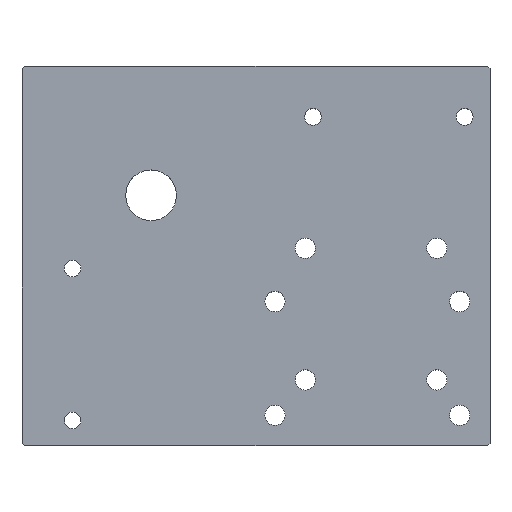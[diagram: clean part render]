
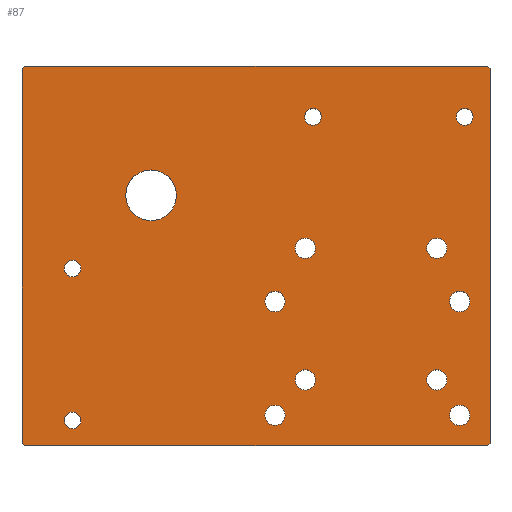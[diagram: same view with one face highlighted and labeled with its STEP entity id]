
A CAD part, top view. The second image highlights one B-rep face of the part: STEP entity #87.
In plain terms, the highlighted planar face has unit normal (0, 0, 1).
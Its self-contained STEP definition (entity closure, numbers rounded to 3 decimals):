
#87=ADVANCED_FACE('',(#194,#195,#196,#197,#198,#199,#200,#201,#202,#203,#204,#205,#206,#207),#208,.T.);
#194=FACE_BOUND('',#309,.T.);
#195=FACE_BOUND('',#310,.T.);
#196=FACE_BOUND('',#311,.T.);
#197=FACE_BOUND('',#312,.T.);
#198=FACE_BOUND('',#313,.T.);
#199=FACE_BOUND('',#314,.T.);
#200=FACE_OUTER_BOUND('',#315,.T.);
#201=FACE_BOUND('',#316,.T.);
#202=FACE_BOUND('',#317,.T.);
#203=FACE_BOUND('',#318,.T.);
#204=FACE_BOUND('',#319,.T.);
#205=FACE_BOUND('',#320,.T.);
#206=FACE_BOUND('',#321,.T.);
#207=FACE_BOUND('',#322,.T.);
#208=PLANE('',#323);
#309=EDGE_LOOP('',(#489));
#310=EDGE_LOOP('',(#490));
#311=EDGE_LOOP('',(#491));
#312=EDGE_LOOP('',(#492));
#313=EDGE_LOOP('',(#493));
#314=EDGE_LOOP('',(#494));
#315=EDGE_LOOP('',(#495,#496,#497,#498,#499,#500,#501,#502));
#316=EDGE_LOOP('',(#503));
#317=EDGE_LOOP('',(#504));
#318=EDGE_LOOP('',(#505));
#319=EDGE_LOOP('',(#506));
#320=EDGE_LOOP('',(#507));
#321=EDGE_LOOP('',(#508));
#322=EDGE_LOOP('',(#509));
#323=AXIS2_PLACEMENT_3D('',#510,#511,#512);
#489=ORIENTED_EDGE('',*,*,#534,.T.);
#490=ORIENTED_EDGE('',*,*,#594,.T.);
#491=ORIENTED_EDGE('',*,*,#592,.T.);
#492=ORIENTED_EDGE('',*,*,#550,.T.);
#493=ORIENTED_EDGE('',*,*,#588,.T.);
#494=ORIENTED_EDGE('',*,*,#531,.T.);
#495=ORIENTED_EDGE('',*,*,#554,.T.);
#496=ORIENTED_EDGE('',*,*,#539,.T.);
#497=ORIENTED_EDGE('',*,*,#590,.T.);
#498=ORIENTED_EDGE('',*,*,#544,.T.);
#499=ORIENTED_EDGE('',*,*,#580,.T.);
#500=ORIENTED_EDGE('',*,*,#586,.T.);
#501=ORIENTED_EDGE('',*,*,#528,.T.);
#502=ORIENTED_EDGE('',*,*,#561,.T.);
#503=ORIENTED_EDGE('',*,*,#557,.T.);
#504=ORIENTED_EDGE('',*,*,#584,.T.);
#505=ORIENTED_EDGE('',*,*,#566,.T.);
#506=ORIENTED_EDGE('',*,*,#547,.T.);
#507=ORIENTED_EDGE('',*,*,#563,.T.);
#508=ORIENTED_EDGE('',*,*,#582,.T.);
#509=ORIENTED_EDGE('',*,*,#595,.T.);
#510=CARTESIAN_POINT('',(62.919,-120.413,0.0));
#511=DIRECTION('',(0.0,0.0,1.0));
#512=DIRECTION('',(1.0,0.0,0.0));
#528=EDGE_CURVE('',#604,#602,#605,.T.);
#531=EDGE_CURVE('',#608,#608,#609,.T.);
#534=EDGE_CURVE('',#613,#613,#614,.T.);
#539=EDGE_CURVE('',#623,#621,#624,.T.);
#544=EDGE_CURVE('',#632,#630,#633,.T.);
#547=EDGE_CURVE('',#636,#636,#637,.T.);
#550=EDGE_CURVE('',#641,#641,#642,.T.);
#554=EDGE_CURVE('',#648,#623,#649,.T.);
#557=EDGE_CURVE('',#652,#652,#653,.T.);
#561=EDGE_CURVE('',#602,#648,#658,.T.);
#563=EDGE_CURVE('',#660,#660,#661,.T.);
#566=EDGE_CURVE('',#665,#665,#666,.T.);
#580=EDGE_CURVE('',#630,#687,#689,.T.);
#582=EDGE_CURVE('',#691,#691,#692,.T.);
#584=EDGE_CURVE('',#694,#694,#695,.T.);
#586=EDGE_CURVE('',#687,#604,#697,.T.);
#588=EDGE_CURVE('',#699,#699,#700,.T.);
#590=EDGE_CURVE('',#621,#632,#702,.T.);
#592=EDGE_CURVE('',#704,#704,#705,.T.);
#594=EDGE_CURVE('',#707,#707,#708,.T.);
#595=EDGE_CURVE('',#709,#709,#710,.T.);
#602=VERTEX_POINT('',#718);
#604=VERTEX_POINT('',#721);
#605=LINE('',#722,#723);
#608=VERTEX_POINT('',#727);
#609=CIRCLE('',#728,4.0);
#613=VERTEX_POINT('',#732);
#614=CIRCLE('',#733,3.3);
#621=VERTEX_POINT('',#741);
#623=VERTEX_POINT('',#744);
#624=LINE('',#745,#746);
#630=VERTEX_POINT('',#754);
#632=VERTEX_POINT('',#757);
#633=LINE('',#758,#759);
#636=VERTEX_POINT('',#763);
#637=CIRCLE('',#764,4.0);
#641=VERTEX_POINT('',#768);
#642=CIRCLE('',#769,4.0);
#648=VERTEX_POINT('',#776);
#649=LINE('',#777,#778);
#652=VERTEX_POINT('',#782);
#653=CIRCLE('',#783,10.0);
#658=LINE('',#789,#790);
#660=VERTEX_POINT('',#792);
#661=CIRCLE('',#793,4.0);
#665=VERTEX_POINT('',#797);
#666=CIRCLE('',#798,4.0);
#687=VERTEX_POINT('',#822);
#689=LINE('',#825,#826);
#691=VERTEX_POINT('',#828);
#692=CIRCLE('',#829,3.3);
#694=VERTEX_POINT('',#831);
#695=CIRCLE('',#832,4.0);
#697=LINE('',#834,#835);
#699=VERTEX_POINT('',#837);
#700=CIRCLE('',#838,4.0);
#702=LINE('',#840,#841);
#704=VERTEX_POINT('',#843);
#705=CIRCLE('',#844,4.0);
#707=VERTEX_POINT('',#846);
#708=CIRCLE('',#847,3.3);
#709=VERTEX_POINT('',#848);
#710=CIRCLE('',#849,3.3);
#718=CARTESIAN_POINT('',(185.0,-149.0,0.0));
#721=CARTESIAN_POINT('',(184.0,-150.0,0.0));
#722=CARTESIAN_POINT('',(184.0,-150.0,0.0));
#723=VECTOR('',#854,1.0);
#727=CARTESIAN_POINT('',(169.0,-138.0,0.0));
#728=AXIS2_PLACEMENT_3D('',#856,#857,#858);
#732=CARTESIAN_POINT('',(16.7,-80.0,0.0));
#733=AXIS2_PLACEMENT_3D('',#862,#863,#864);
#741=CARTESIAN_POINT('',(1.0,0.0,0.0));
#744=CARTESIAN_POINT('',(184.0,0.0,0.0));
#745=CARTESIAN_POINT('',(184.0,0.0,0.0));
#746=VECTOR('',#870,1.0);
#754=CARTESIAN_POINT('',(0.0,-149.0,0.0));
#757=CARTESIAN_POINT('',(0.0,-1.,0.0));
#758=CARTESIAN_POINT('',(0.0,-1.,0.0));
#759=VECTOR('',#874,1.0);
#763=CARTESIAN_POINT('',(96.0,-93.0,0.0));
#764=AXIS2_PLACEMENT_3D('',#876,#877,#878);
#768=CARTESIAN_POINT('',(108.0,-72.0,0.0));
#769=AXIS2_PLACEMENT_3D('',#882,#883,#884);
#776=CARTESIAN_POINT('',(185.0,-1.0,0.0));
#777=CARTESIAN_POINT('',(185.0,-1.0,0.0));
#778=VECTOR('',#889,1.0);
#782=CARTESIAN_POINT('',(41.0,-51.0,0.0));
#783=AXIS2_PLACEMENT_3D('',#891,#892,#893);
#789=CARTESIAN_POINT('',(185.0,-149.0,0.0));
#790=VECTOR('',#898,1.0);
#792=CARTESIAN_POINT('',(96.0,-138.0,0.0));
#793=AXIS2_PLACEMENT_3D('',#899,#900,#901);
#797=CARTESIAN_POINT('',(169.0,-93.0,0.0));
#798=AXIS2_PLACEMENT_3D('',#905,#906,#907);
#822=CARTESIAN_POINT('',(1.,-150.0,0.0));
#825=CARTESIAN_POINT('',(0.0,-149.0,0.0));
#826=VECTOR('',#933,1.0);
#828=CARTESIAN_POINT('',(111.7,-20.0,0.0));
#829=AXIS2_PLACEMENT_3D('',#934,#935,#936);
#831=CARTESIAN_POINT('',(160.0,-124.0,0.0));
#832=AXIS2_PLACEMENT_3D('',#937,#938,#939);
#834=CARTESIAN_POINT('',(1.,-150.0,0.0));
#835=VECTOR('',#940,1.0);
#837=CARTESIAN_POINT('',(160.0,-72.0,0.0));
#838=AXIS2_PLACEMENT_3D('',#941,#942,#943);
#840=CARTESIAN_POINT('',(1.0,0.0,0.0));
#841=VECTOR('',#944,1.0);
#843=CARTESIAN_POINT('',(108.0,-124.0,0.0));
#844=AXIS2_PLACEMENT_3D('',#945,#946,#947);
#846=CARTESIAN_POINT('',(171.7,-20.0,0.0));
#847=AXIS2_PLACEMENT_3D('',#948,#949,#950);
#848=CARTESIAN_POINT('',(16.7,-140.0,0.0));
#849=AXIS2_PLACEMENT_3D('',#951,#952,#953);
#854=DIRECTION('',(0.707,0.707,0.0));
#856=CARTESIAN_POINT('',(173.0,-138.0,0.0));
#857=DIRECTION('',(0.0,0.0,-1.0));
#858=DIRECTION('',(-1.0,0.0,0.0));
#862=CARTESIAN_POINT('',(20.0,-80.0,0.0));
#863=DIRECTION('',(0.0,0.0,-1.0));
#864=DIRECTION('',(-1.0,0.0,0.0));
#870=DIRECTION('',(-1.0,0.0,0.0));
#874=DIRECTION('',(0.0,-1.0,0.0));
#876=CARTESIAN_POINT('',(100.0,-93.0,0.0));
#877=DIRECTION('',(0.0,0.0,-1.0));
#878=DIRECTION('',(-1.0,0.0,0.0));
#882=CARTESIAN_POINT('',(112.0,-72.0,0.0));
#883=DIRECTION('',(0.0,0.0,-1.0));
#884=DIRECTION('',(-1.0,0.0,0.0));
#889=DIRECTION('',(-0.707,0.707,0.0));
#891=CARTESIAN_POINT('',(51.0,-51.0,0.0));
#892=DIRECTION('',(0.0,0.0,-1.0));
#893=DIRECTION('',(-1.0,0.0,0.0));
#898=DIRECTION('',(0.0,1.0,0.0));
#899=CARTESIAN_POINT('',(100.0,-138.0,0.0));
#900=DIRECTION('',(0.0,0.0,-1.0));
#901=DIRECTION('',(-1.0,0.0,0.0));
#905=CARTESIAN_POINT('',(173.0,-93.0,0.0));
#906=DIRECTION('',(0.0,0.0,-1.0));
#907=DIRECTION('',(-1.0,0.0,0.0));
#933=DIRECTION('',(0.707,-0.707,0.0));
#934=CARTESIAN_POINT('',(115.0,-20.0,0.0));
#935=DIRECTION('',(0.0,0.0,-1.0));
#936=DIRECTION('',(-1.0,0.0,0.0));
#937=CARTESIAN_POINT('',(164.0,-124.0,0.0));
#938=DIRECTION('',(0.0,0.0,-1.0));
#939=DIRECTION('',(-1.0,0.0,0.0));
#940=DIRECTION('',(1.0,0.0,0.0));
#941=CARTESIAN_POINT('',(164.0,-72.0,0.0));
#942=DIRECTION('',(0.0,0.0,-1.0));
#943=DIRECTION('',(-1.0,0.0,0.0));
#944=DIRECTION('',(-0.707,-0.707,0.0));
#945=CARTESIAN_POINT('',(112.0,-124.0,0.0));
#946=DIRECTION('',(0.0,0.0,-1.0));
#947=DIRECTION('',(-1.0,0.0,0.0));
#948=CARTESIAN_POINT('',(175.0,-20.0,0.0));
#949=DIRECTION('',(0.0,0.0,-1.0));
#950=DIRECTION('',(-1.0,0.0,0.0));
#951=CARTESIAN_POINT('',(20.0,-140.0,0.0));
#952=DIRECTION('',(0.0,0.0,-1.0));
#953=DIRECTION('',(-1.0,0.0,0.0));
